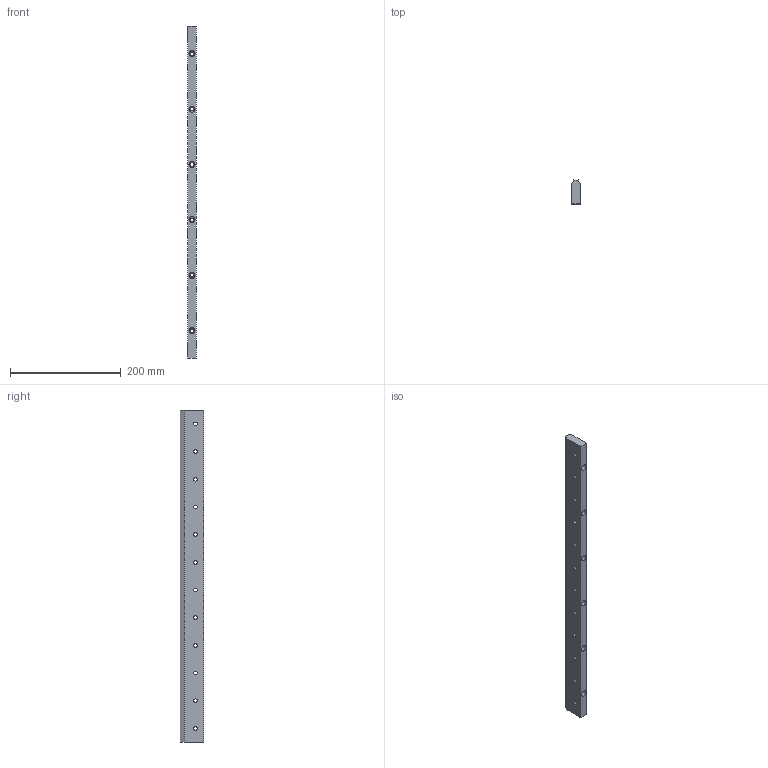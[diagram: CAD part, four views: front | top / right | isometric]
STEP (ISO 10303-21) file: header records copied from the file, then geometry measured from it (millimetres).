
FILE_DESCRIPTION (( 'STEP AP203' ), '1' );
FILE_NAME ('FKWU54-220.step', '2020-03-23T07:53:25', ( '' ), ( '' ), 'SwSTEP 2.0', 'SolidWorks 2019', '' );
FILE_SCHEMA (( 'CONFIG_CONTROL_DESIGN' ));
Length unit declared in the file: millimetre
Products named in the file (2): FKWU54-220
Bounding box: 15 x 42.82 x 599.5 mm (x, y, z)
Volume: 343328.2 mm3; surface area: 77523.7 mm2
Topology: 1 solids, 1 shells, 99 faces, 243 edges, 158 vertices
Faces by surface type: cylinder 72, plane 27
Entity records: 3200 total; most frequent: DIRECTION 565, CARTESIAN_POINT 538, ORIENTED_EDGE 486, EDGE_CURVE 243, AXIS2_PLACEMENT_3D 233, VERTEX_POINT 158, EDGE_LOOP 147, CIRCLE 132
